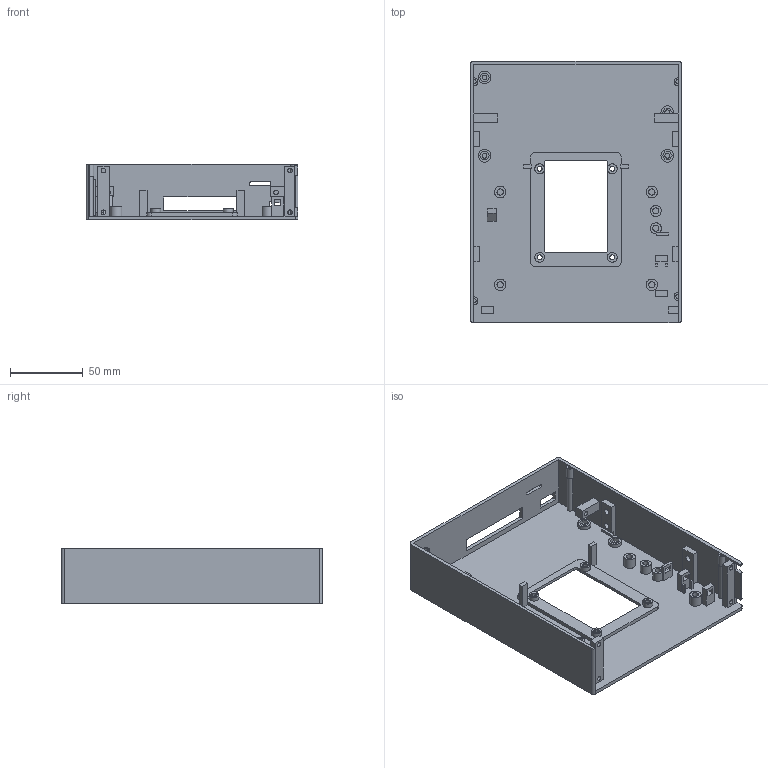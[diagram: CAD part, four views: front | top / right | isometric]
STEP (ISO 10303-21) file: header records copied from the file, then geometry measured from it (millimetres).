
FILE_DESCRIPTION(('Open CASCADE Model'),'2;1');
FILE_NAME('Open CASCADE Shape Model','2026-11-07T16:31:35',('Author'),( 'Open CASCADE'),'Open CASCADE STEP processor 7.9','Open CASCADE 7.9' ,'Unknown');
FILE_SCHEMA(('AUTOMOTIVE_DESIGN { 1 0 10303 214 1 1 1 1 }'));
Length unit declared in the file: millimetre
Products named in the file (1): Open CASCADE STEP translator 7.9 32
Bounding box: 146.05 x 180 x 38.5 mm (x, y, z)
Volume: 110961.6 mm3; surface area: 94706.7 mm2
Topology: 1 solids, 1 shells, 310 faces, 759 edges, 506 vertices
Faces by surface type: plane 226, cylinder 84
Full cylindrical faces by diameter (mm): 3.2 x6, 3.3 x12, 4.2 x2, 4.3 x16, 6.8 x4, 7.6 x1, 8 x4, 8.8 x4
Entity records: 19263 total; most frequent: CARTESIAN_POINT 3682, DIRECTION 2934, LINE 1883, VECTOR 1883, ORIENTED_EDGE 1518, PCURVE 1518, DEFINITIONAL_REPRESENTATION 1518, EDGE_CURVE 759
